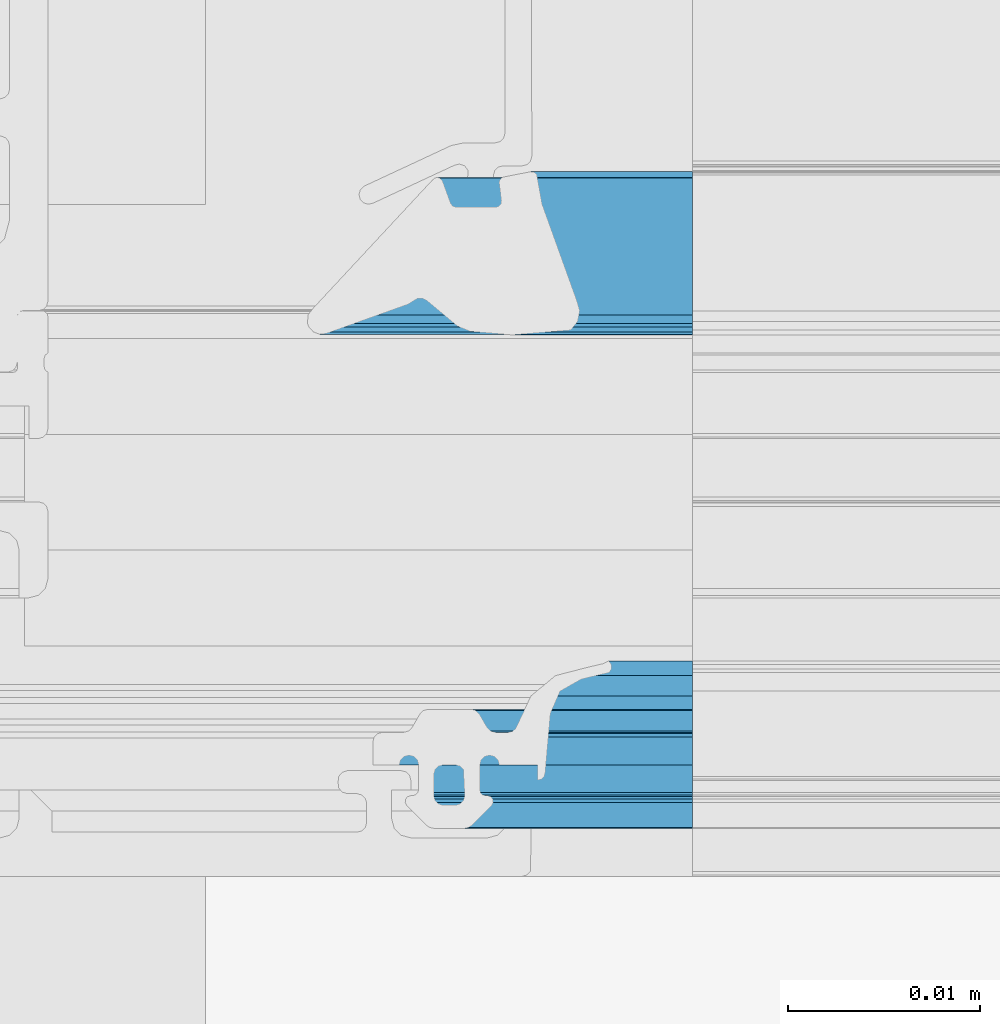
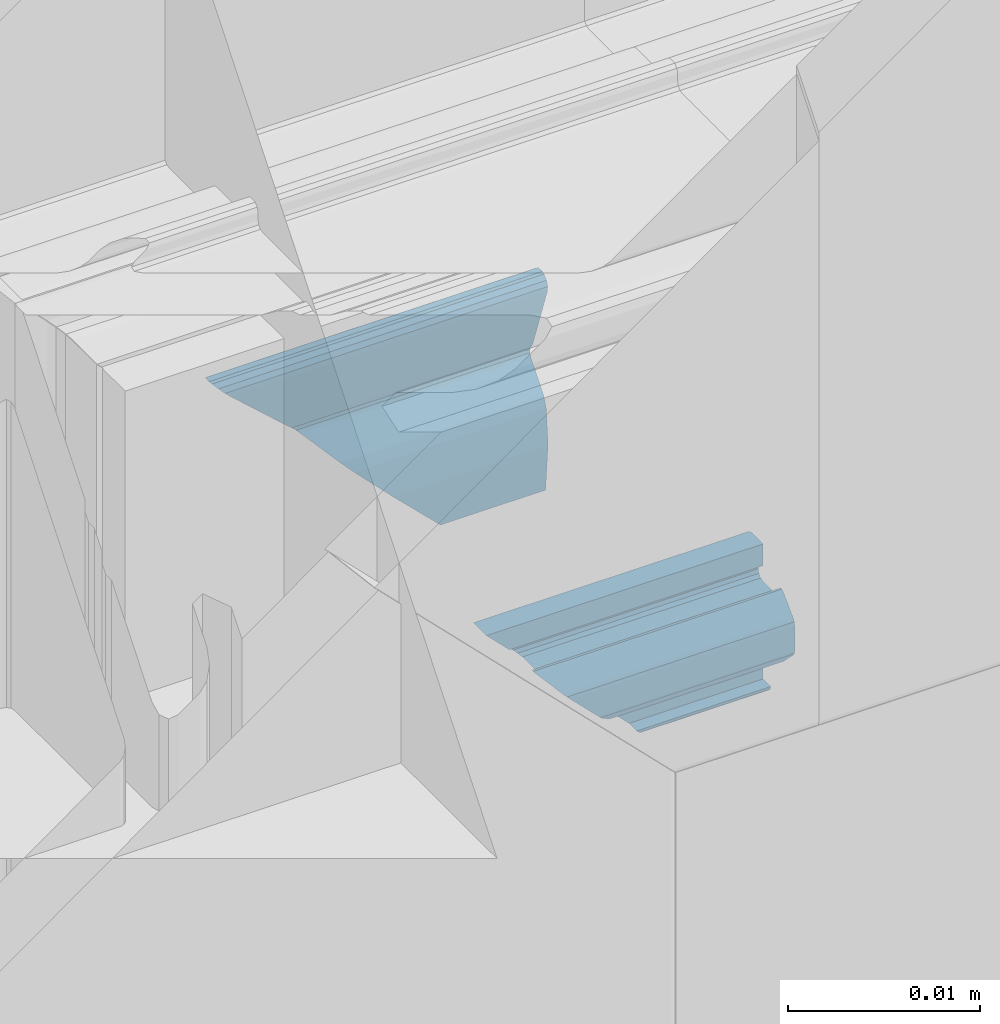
# One storey, part 39 of 69: 1 building element part, 2 elements without a shape of their own.
"""IFC2X3 building model written with IfcOpenShell, lengths in millimetres."""

import ifcopenshell
import ifcopenshell.guid

model = None  # the IFC model being written
_history = None  # IfcOwnerHistory: only IFC2X3 demands one
_inside = {}  # id of a spatial element -> (the spatial element, [elements in it])
_under = {}  # id of a project, library or spatial element -> (it, [spatial elements below it])
_declared = {}  # id of a project -> (the project, [libraries it declares])
_typed = {}  # id of a type object -> (the type object, [elements of that type])
_made_of = {}  # id of a material, layer set ... -> (it, [elements and type objects made of it])


def new_model(schema):
    """Start an empty IFC model of exactly this schema.

    Asked for "IFC4X3", IfcOpenShell would pick the latest addendum, in which some entities
    have other attributes; the version numbers below select the first issue.
    IFC2X3 requires an IfcOwnerHistory on every rooted entity: one is made here for all.
    """
    global model, _history
    if schema == "IFC4X3":
        model = ifcopenshell.file(schema_version=(4, 3, 0, 0))
    else:
        model = ifcopenshell.file(schema=schema)
    _inside.clear()
    _under.clear()
    _declared.clear()
    _typed.clear()
    _made_of.clear()
    _history = None
    if model.schema == "IFC2X3":
        org = make("IfcOrganization", Name="unknown")
        user = make(
            "IfcPersonAndOrganization",
            ThePerson=make("IfcPerson", FamilyName="unknown"),
            TheOrganization=org,
        )
        app = make(
            "IfcApplication",
            ApplicationDeveloper=org,
            Version="unknown",
            ApplicationFullName="unknown",
            ApplicationIdentifier="unknown",
        )
        _history = make(
            "IfcOwnerHistory",
            OwningUser=user,
            OwningApplication=app,
            ChangeAction="ADDED",
            CreationDate=0,
        )
    return model


def make(cls, **values):
    """One entity of the class cls with the attributes given. An attribute that is None is left unset."""
    return model.create_entity(
        cls, **{name: value for name, value in values.items() if value is not None}
    )


def entity(cls, *values):
    """Any entity or typed value of the class cls, its attributes in the order of the schema. None: left unset."""
    e = model.create_entity(cls)
    for i, value in enumerate(values):
        if value is not None:
            e[i] = value
    return e


def rooted(cls, **values):
    """An entity with a GlobalId (a new one), such as an element, a storey or a relation."""
    return make(cls, GlobalId=ifcopenshell.guid.new(), OwnerHistory=_history, **values)


def si_unit(unit_type, name, prefix=None):
    """IfcSIUnit, for example si_unit("LENGTHUNIT", "METRE", prefix="MILLI")."""
    return make("IfcSIUnit", UnitType=unit_type, Prefix=prefix, Name=name)


def converted_unit(unit_type, name, factor, base, dimensions=None, offset=None):
    """IfcConversionBasedUnit, such as the inch: factor (a typed value) times the base unit."""
    return make(
        "IfcConversionBasedUnit"
        if offset is None
        else "IfcConversionBasedUnitWithOffset",
        ConversionOffset=offset,
        Dimensions=None
        if dimensions is None
        else entity("IfcDimensionalExponents", *dimensions),
        UnitType=unit_type,
        Name=name,
        ConversionFactor=make(
            "IfcMeasureWithUnit", ValueComponent=factor, UnitComponent=base
        ),
    )


def derived_unit(unit_type, elements):
    """IfcDerivedUnit: a product of units, each with its exponent."""
    return make(
        "IfcDerivedUnit",
        Elements=[
            make("IfcDerivedUnitElement", Unit=unit, Exponent=power)
            for unit, power in elements
        ],
        UnitType=unit_type,
    )


def money_unit(currency):
    """IfcMonetaryUnit."""
    return make("IfcMonetaryUnit", Currency=currency)


def assignment(units):
    """IfcUnitAssignment: the units of a project."""
    return None if units is None else make("IfcUnitAssignment", Units=units)


def point(xyz):
    """IfcCartesianPoint."""
    return None if xyz is None else make("IfcCartesianPoint", Coordinates=xyz)


def direction(xyz):
    """IfcDirection."""
    return None if xyz is None else make("IfcDirection", DirectionRatios=xyz)


def frame(location, z_axis=None, x_axis=None):
    """IfcAxis2Placement3D, a coordinate frame: its origin and axes. An axis left out is left unset."""
    return make(
        "IfcAxis2Placement3D",
        Location=point(location),
        Axis=direction(z_axis),
        RefDirection=direction(x_axis),
    )


def origin_with_axes():
    """The frame at (0, 0, 0) with the z axis (0, 0, 1) and the x axis (1, 0, 0) written out."""
    return frame((0.0, 0.0, 0.0), z_axis=(0.0, 0.0, 1.0), x_axis=(1.0, 0.0, 0.0))


def place(relative_to, where):
    """IfcLocalPlacement: puts the frame where relative to a parent placement (None: the world)."""
    return make(
        "IfcLocalPlacement", PlacementRelTo=relative_to, RelativePlacement=where
    )


def context(
    kind, dimensions, precision=None, world=None, true_north=None, identifier=None
):
    """IfcGeometricRepresentationContext, for example the 3D "Model" context."""
    return make(
        "IfcGeometricRepresentationContext",
        ContextIdentifier=identifier,
        ContextType=kind,
        CoordinateSpaceDimension=dimensions,
        Precision=precision,
        WorldCoordinateSystem=world,
        TrueNorth=true_north,
    )


def subcontext(parent, identifier, kind, view, scale=None):
    """IfcGeometricRepresentationSubContext, for example "Body" below "Model"."""
    return make(
        "IfcGeometricRepresentationSubContext",
        ContextIdentifier=identifier,
        ContextType=kind,
        ParentContext=parent,
        TargetScale=scale,
        TargetView=view,
    )


def project(units=None, contexts=None):
    """IfcProject with its units and contexts."""
    return rooted(
        "IfcProject",
        Name="project",
        RepresentationContexts=contexts,
        UnitsInContext=assignment(units),
    )


def spatial(cls, under=None, at=None, **own):
    """A site, building, storey or space (cls), placed at a placement, below another one or the project."""
    s = rooted(cls, ObjectPlacement=at, **own)
    if under is not None:
        _under.setdefault(under.id(), (under, []))[1].append(s)
    return s


def faces_of(points, faces, orient=None, outer=None):
    """IfcFace entities. A face is a list of loops; a loop is a list of indices into points, from 0.

    orient and outer hold one flag for each loop. By default every Orientation is true, the
    first loop of a face is its IfcFaceOuterBound and the others are IfcFaceBound.
    """
    made = []
    for i, loops in enumerate(faces):
        bounds = []
        for j, loop in enumerate(loops):
            is_outer = j == 0 if outer is None else outer[i][j]
            bounds.append(
                make(
                    "IfcFaceOuterBound" if is_outer else "IfcFaceBound",
                    Bound=make("IfcPolyLoop", Polygon=[points[k] for k in loop]),
                    Orientation=True if orient is None else orient[i][j],
                )
            )
        made.append(make("IfcFace", Bounds=bounds))
    return made


def faceted_brep(points, faces, orient=None, outer=None, voids=None):
    """IfcFacetedBrep: a solid bounded by flat faces; with voids (closed shells), ...WithVoids."""
    shared = [point(p) for p in points]
    hull = make("IfcClosedShell", CfsFaces=faces_of(shared, faces, orient, outer))
    if voids is None:
        return make("IfcFacetedBrep", Outer=hull)
    return make(
        "IfcFacetedBrepWithVoids",
        Outer=hull,
        Voids=[
            make(cls, CfsFaces=faces_of(shared, fs, o, b)) for cls, fs, o, b in voids
        ],
    )


def shape(context_of_items, identifier, shape_type, items):
    """IfcShapeRepresentation: the items that make up one representation, for example the "Body"."""
    return make(
        "IfcShapeRepresentation",
        ContextOfItems=context_of_items,
        RepresentationIdentifier=identifier,
        RepresentationType=shape_type,
        Items=items,
    )


def material(Name=None, Category=None):
    """IfcMaterial."""
    return make("IfcMaterial", Name=Name, Category=Category)


def made_of(thing, what):
    """Note that an element or type object is made of a material, layer set ...; save() writes the relation."""
    if what is not None:
        _made_of.setdefault(what.id(), (what, []))[1].append(thing)
    return thing


def type_object(cls, material=None, **own):
    """A type object (cls), such as IfcWallType, which elements share."""
    return made_of(rooted(cls, **own), material)


def element(
    cls,
    number,
    at=None,
    inside=None,
    cuts=None,
    type_object=None,
    material=None,
    context=None,
    identifier="Body",
    shape_type=None,
    held_by="IfcProductDefinitionShape",
    body=None,
    shapes=None,
    **own,
):
    """One element of the class cls, such as IfcWall. Its Tag is "e" and its number.

    at: its placement. inside: the storey or other place that contains it. cuts: it is an
    opening in that element (IfcRelVoidsElement). A single representation is given by context,
    identifier, shape_type and body (its items); several are given by shapes. held_by: the class
    of the entity that holds the representations. save() writes the other relations.
    """
    e = rooted(cls, Tag="e%d" % number, ObjectPlacement=at, **own)
    if body is not None:
        shapes = [shape(context, identifier, shape_type, body)]
    if shapes is not None:
        e.Representation = make(held_by, Representations=shapes)
    if inside is not None:
        _inside.setdefault(inside.id(), (inside, []))[1].append(e)
    if cuts is not None:
        rooted(
            "IfcRelVoidsElement", RelatingBuildingElement=cuts, RelatedOpeningElement=e
        )
    if type_object is not None:
        _typed.setdefault(type_object.id(), (type_object, []))[1].append(e)
    return made_of(e, material)


def aggregate(whole, parts):
    """IfcRelAggregates: a whole, such as a stair, and the parts it consists of."""
    return rooted("IfcRelAggregates", RelatingObject=whole, RelatedObjects=parts)


def save(model, path):
    """Write the relations noted so far, then the file.

    IfcRelAggregates (storeys below a building ...), IfcRelContainedInSpatialStructure (elements
    in a storey), IfcRelDefinesByType, IfcRelAssociatesMaterial and IfcRelDeclares: one each for
    every whole, place, type object, material and project.
    """
    for whole, parts in _under.values():
        aggregate(whole, parts)
    for where, things in _inside.values():
        rooted(
            "IfcRelContainedInSpatialStructure",
            RelatedElements=things,
            RelatingStructure=where,
        )
    for kind, things in _typed.values():
        rooted("IfcRelDefinesByType", RelatedObjects=things, RelatingType=kind)
    for what, things in _made_of.values():
        rooted("IfcRelAssociatesMaterial", RelatedObjects=things, RelatingMaterial=what)
    for by, libraries in _declared.values():
        rooted("IfcRelDeclares", RelatingContext=by, RelatedDefinitions=libraries)
    model.write(path)


model = new_model("IFC2X3")

# Units and contexts
model_context = context("Model", 3, precision=0.01, world=origin_with_axes(), true_north=direction((0.0, 1.0)))
body_context = subcontext(model_context, "Body", "Model", "MODEL_VIEW")
ifc_project = project(units=[si_unit("LENGTHUNIT", "METRE", prefix="MILLI"), si_unit("AREAUNIT", "SQUARE_METRE"), si_unit("VOLUMEUNIT", "CUBIC_METRE"), converted_unit("PLANEANGLEUNIT", "DEGREE", entity("IfcPlaneAngleMeasure", 0.0174532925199), si_unit("PLANEANGLEUNIT", "RADIAN"), dimensions=[0, 0, 0, 0, 0, 0, 0]), si_unit("SOLIDANGLEUNIT", "STERADIAN"), money_unit("EUR"), converted_unit("TIMEUNIT", "Year", entity("IfcTimeMeasure", 31556926.0), si_unit("TIMEUNIT", "SECOND"), dimensions=[0, 0, 1, 0, 0, 0, 0]), si_unit("MASSUNIT", "GRAM", prefix="KILO"), si_unit("THERMODYNAMICTEMPERATUREUNIT", "DEGREE_CELSIUS"), si_unit("LUMINOUSINTENSITYUNIT", "LUMEN"), si_unit("ENERGYUNIT", "JOULE", prefix="MEGA"), derived_unit("THERMALCONDUCTANCEUNIT", [(si_unit("POWERUNIT", "WATT"), 1), (si_unit("LENGTHUNIT", "METRE"), -1), (si_unit("THERMODYNAMICTEMPERATUREUNIT", "KELVIN"), -1)]), derived_unit("SPECIFICHEATCAPACITYUNIT", [(si_unit("ENERGYUNIT", "JOULE"), 1), (si_unit("MASSUNIT", "GRAM", prefix="KILO"), -1), (si_unit("THERMODYNAMICTEMPERATUREUNIT", "KELVIN"), -1)]), derived_unit("MASSDENSITYUNIT", [(si_unit("MASSUNIT", "GRAM", prefix="KILO"), 1), (si_unit("VOLUMEUNIT", "CUBIC_METRE"), -1)])], contexts=[model_context])

# Site, building, storey
site_placement = place(None, origin_with_axes())
site = spatial("IfcSite", under=ifc_project, at=site_placement, Name="Puškini 31, Narva", CompositionType="ELEMENT")
building_placement = place(site_placement, origin_with_axes())
building = spatial("IfcBuilding", under=site, at=building_placement, Name="Narva Riigigümnaasium", CompositionType="ELEMENT")
storey_placement = place(building_placement, origin_with_axes())
storey = spatial("IfcBuildingStorey", under=building, at=storey_placement, Name="1.korrus 0.00", CompositionType="ELEMENT", Elevation=0.0)

# Curtain wall, member, building element part
curtain_wall_type = type_object("IfcCurtainWallType", Name="Curtain Wall Type", PredefinedType="NOTDEFINED")
curtain_wall_placement = place(storey_placement, frame((18229.9603698, 152620.000001, -0.397158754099), z_axis=(0.0, 0.0, 1.0), x_axis=(1.0, 0.0, 0.0)))
curtain_wall = element("IfcCurtainWall", 1, at=curtain_wall_placement, inside=storey, type_object=curtain_wall_type, Name="G-KLF-01-1")
member_type = type_object("IfcMemberType", Name="61 x 45", PredefinedType="MULLION")
member_placement = place(curtain_wall_placement, frame((-2105.59313248, 0.0, 3760.3971197), z_axis=(-1.0, 0.0, 0.0), x_axis=(0.0, 0.0, 1.0)))
member = element("IfcMember", 2, at=member_placement, type_object=member_type, Name="G-SKLF-10-raam", ObjectType="MULLION")
aggregate(curtain_wall, [member])
ifc_material = material(Name="Membraan - Veekindel")
building_element_part_placement = place(member_placement, origin_with_axes())
building_element_part = element("IfcBuildingElementPart", 3, at=building_element_part_placement, material=ifc_material, Name="Membraan - Veekindel", context=body_context, shape_type="Brep", body=[
    faceted_brep([(-61.0413385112, -34.3890442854, 0.0), (-59.5800222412, -34.73794757, 0.0), (-59.5800222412, -34.73794757, 5.78718861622), (-61.0413385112, -34.3890442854, 4.32587234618), (-61.1536677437, -34.1934467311, 0.0), (-61.1423164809, -33.9681748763, 0.0), (-61.0108941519, -33.784859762, 0.0), (-60.7381535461, -33.9217644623, 0.0), (-59.8409257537, -34.1343131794, 0.0), (-58.2346494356, -34.5489145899, 0.0), (-56.9567944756, -35.6067920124, 0.0), (-56.2495873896, -37.1074172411, 0.0), (-56.1542959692, -37.3107917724, 0.0), (-55.9795989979, -37.4519392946, 0.0), (-55.7607444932, -37.5023809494, 0.0), (-55.1093263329, -37.5023809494, 0.0), (-54.8593263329, -37.4353936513, 0.0), (-54.676313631, -37.2523809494, 0.0), (-54.2721684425, -36.5523809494, 0.0), (-54.0891557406, -36.3693682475, 0.0), (-53.8391557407, -36.3023809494, 0.0), (-51.602145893, -36.3023809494, 0.0), (-51.352145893, -36.3693682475, 0.0), (-51.1691331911, -36.5523809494, 0.0), (-50.7649880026, -37.2523809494, 0.0), (-50.5819753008, -37.4353936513, 0.0), (-50.3319753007, -37.5023809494, 0.0), (-49.2206527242, -37.5023809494, 0.0), (-48.9706527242, -37.5693682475, 0.0), (-48.7876400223, -37.7523809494, 0.0), (-48.7206527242, -38.0023809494, 0.0), (-48.7206527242, -39.1999494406, 0.0), (-50.10004, -39.1999494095, 0.0), (-50.1670287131, -38.9499497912, 0.0), (-50.3500424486, -38.7669381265, 0.0), (-50.6000428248, -38.699952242, 0.0), (-50.8500424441, -38.7669409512, 0.0), (-51.0330541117, -38.9499546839, 0.0), (-51.10004, -39.1999550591, 0.0), (-51.10004, -40.4999366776, 0.0), (-51.0598476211, -40.6499366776, 0.0), (-50.95004, -40.7597442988, 0.0), (-50.80004, -40.7999366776, 0.0), (-50.7000457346, -40.7999366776, 0.0), (-50.5334025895, -40.8504763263, 0.0), (-50.4229059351, -40.9850671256, 0.0), (-50.4057850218, -41.1583618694, 0.0), (-50.4878083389, -41.3119729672, 0.0), (-51.5281601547, -42.3533311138, 0.0), (-51.6904310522, -42.4618421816, 0.0), (-51.8818844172, -42.4999486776, 0.0), (-53.517932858, -42.4999486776, 0.0), (-53.7093558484, -42.4618547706, 0.0), (-53.8716106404, -42.3533776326, 0.0), (-54.9122350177, -41.3120206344, 0.0), (-54.9942836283, -41.1584047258, 0.0), (-54.9771753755, -40.9850924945, 0.0), (-54.866675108, -40.850483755, 0.0), (-54.7000173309, -40.7999366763, 0.0), (-54.6000210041, -40.7999366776, 0.0), (-54.4500210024, -40.7597443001, 0.0), (-54.3402133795, -40.6499366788, 0.0), (-54.300021, -40.4999366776, 0.0), (-54.300021, -39.1999606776, 0.0), (-54.3670082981, -38.9499606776, 0.0), (-54.5500210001, -38.7669479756, 0.0), (-54.8000210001, -38.6999606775, 0.0), (-55.0500210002, -38.7669479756, 0.0), (-55.2330337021, -38.9499606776, 0.0), (-55.3000210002, -39.1999606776, 0.0), (-57.3000022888, -39.1999494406, 0.0), (-57.3000022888, -39.9999846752, 0.0), (-57.5000161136, -39.9463912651, 0.0), (-57.6464370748, -39.7999717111, 0.0), (-57.7000324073, -39.5999584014, 0.0), (-57.9693613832, -36.5265882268, 0.0), (-58.4755028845, -35.3628499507, 0.0), (-53.5000340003, -40.7999553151, 0.0), (-53.4330491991, -41.0499459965, 0.0), (-53.2500433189, -41.2329518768, 0.0), (-53.0000526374, -41.299936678, 0.0), (-52.4000083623, -41.299936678, 0.0), (-52.150017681, -41.2329518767, 0.0), (-51.9670118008, -41.0499459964, 0.0), (-51.9000269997, -40.799955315, 0.0), (-51.9000269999, -39.6999268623, 0.0), (-51.9670129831, -39.4499317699, 0.0), (-52.1500220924, -39.2669226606, 0.0), (-52.4000171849, -39.1999366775, 0.0), (-53.0000438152, -39.1999366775, 0.0), (-53.2500389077, -39.2669226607, 0.0), (-53.433048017, -39.44993177, 0.0), (-58.4755028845, -35.3628499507, 6.89170797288), (-57.9693613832, -36.5265882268, 7.39784947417), (-57.7000324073, -39.5999584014, 7.66717845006), (-57.6464370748, -39.7999717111, 7.72077378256), (-57.5000161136, -39.9463912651, 7.86719474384), (-57.3000022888, -39.9999846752, 8.06720856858), (-57.3000022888, -39.1999494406, 8.06720856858), (-55.3000210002, -39.1999606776, 10.0671898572), (-55.2330337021, -38.9499606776, 10.1341771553), (-55.0500210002, -38.7669479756, 10.3171898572), (-54.8000210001, -38.6999606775, 10.5671898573), (-54.5500210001, -38.7669479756, 10.8171898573), (-54.3670082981, -38.9499606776, 11.0002025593), (-54.300021, -39.1999606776, 11.0671898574), (-54.300021, -40.4999366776, 11.0671898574), (-54.3402133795, -40.6499366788, 11.0269974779), (-54.4500210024, -40.7597443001, 10.917189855), (-54.6000210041, -40.7999366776, 10.7671898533), (-54.7000173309, -40.7999366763, 10.6671935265), (-54.866675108, -40.850483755, 10.5005357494), (-54.9771753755, -40.9850924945, 10.3900354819), (-54.9942836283, -41.1584047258, 10.3729272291), (-54.9122350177, -41.3120206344, 10.4549758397), (-53.8716106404, -42.3533776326, 11.495600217), (-53.7093558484, -42.4618547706, 11.657855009), (-53.517932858, -42.4999486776, 11.8492779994), (-51.8818844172, -42.4999486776, 13.4853264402), (-51.6904310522, -42.4618421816, 13.6767798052), (-51.5281601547, -42.3533311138, 13.8390507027), (-50.4878083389, -41.3119729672, 14.8794025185), (-50.4057850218, -41.1583618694, 14.9614258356), (-50.4229059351, -40.9850671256, 14.9443049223), (-50.5334025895, -40.8504763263, 14.8338082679), (-50.7000457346, -40.7999366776, 14.6671651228), (-50.80004, -40.7999366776, 14.5671708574), (-50.95004, -40.7597442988, 14.4171708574), (-51.0598476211, -40.6499366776, 14.3073632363), (-51.10004, -40.4999366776, 14.2671708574), (-51.10004, -39.1999550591, 14.2671708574), (-51.0330541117, -38.9499546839, 14.3341567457), (-50.8500424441, -38.7669409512, 14.5171684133), (-50.6000428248, -38.699952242, 14.7671680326), (-50.3500424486, -38.7669381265, 15.0171684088), (-50.1670287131, -38.9499497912, 15.2001821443), (-50.10004, -39.1999494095, 15.2671708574), (-48.7206527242, -39.1999494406, 16.6465581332), (-48.7206527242, -38.0023809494, 16.6465581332), (-48.7876400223, -37.7523809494, 16.5795708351), (-48.9706527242, -37.5693682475, 16.3965581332), (-49.2206527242, -37.5023809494, 16.1465581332), (-50.3319753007, -37.5023809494, 15.0352355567), (-50.5819753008, -37.4353936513, 14.7852355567), (-50.7649880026, -37.2523809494, 14.6022228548), (-51.1691331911, -36.5523809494, 14.1980776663), (-51.352145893, -36.3693682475, 14.0150649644), (-51.602145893, -36.3023809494, 13.7650649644), (-53.8391557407, -36.3023809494, 11.5280551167), (-54.0891557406, -36.3693682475, 11.2780551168), (-54.2721684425, -36.5523809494, 11.0950424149), (-54.676313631, -37.2523809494, 10.6908972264), (-54.8593263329, -37.4353936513, 10.5078845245), (-55.1093263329, -37.5023809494, 10.2578845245), (-55.7607444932, -37.5023809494, 9.60646636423), (-55.9795989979, -37.4519392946, 9.38761185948), (-56.1542959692, -37.3107917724, 9.21291488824), (-56.2495873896, -37.1074172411, 9.11762346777), (-56.9567944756, -35.6067920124, 8.41041638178), (-58.2346494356, -34.5489145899, 7.13256142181), (-59.8409257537, -34.1343131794, 5.52628510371), (-60.7381535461, -33.9217644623, 4.62905731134), (-61.0108941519, -33.784859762, 4.35631670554), (-61.1423164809, -33.9681748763, 4.22489437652), (-61.1536677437, -34.1934467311, 4.21354311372), (-53.5000340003, -40.7999553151, 11.8671768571), (-53.433048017, -39.44993177, 11.9341628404), (-53.2500389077, -39.2669226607, 12.1171719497), (-53.0000438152, -39.1999366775, 12.3671670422), (-52.4000171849, -39.1999366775, 12.9671936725), (-52.1500220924, -39.2669226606, 13.217188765), (-51.9670129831, -39.4499317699, 13.4001978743), (-51.9000269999, -39.6999268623, 13.4671838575), (-51.9000269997, -40.799955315, 13.4671838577), (-51.9670118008, -41.0499459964, 13.4001990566), (-52.150017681, -41.2329518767, 13.2171931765), (-52.4000083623, -41.299936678, 12.9672024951), (-53.0000526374, -41.299936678, 12.36715822), (-53.2500433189, -41.2329518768, 12.1171675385), (-53.4330491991, -41.0499459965, 11.9341616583)], [[[0, 1, 2, 3]], [[0, 4, 5, 6, 7, 8, 9, 10, 11, 12, 13, 14, 15, 16, 17, 18, 19, 20, 21, 22, 23, 24, 25, 26, 27, 28, 29, 30, 31, 32, 33, 34, 35, 36, 37, 38, 39, 40, 41, 42, 43, 44, 45, 46, 47, 48, 49, 50, 51, 52, 53, 54, 55, 56, 57, 58, 59, 60, 61, 62, 63, 64, 65, 66, 67, 68, 69, 70, 71, 72, 73, 74, 75, 76, 1], [77, 78, 79, 80, 81, 82, 83, 84, 85, 86, 87, 88, 89, 90, 91]], [[1, 76, 92, 2]], [[3, 2, 92, 93, 94, 95, 96, 97, 98, 99, 100, 101, 102, 103, 104, 105, 106, 107, 108, 109, 110, 111, 112, 113, 114, 115, 116, 117, 118, 119, 120, 121, 122, 123, 124, 125, 126, 127, 128, 129, 130, 131, 132, 133, 134, 135, 136, 137, 138, 139, 140, 141, 142, 143, 144, 145, 146, 147, 148, 149, 150, 151, 152, 153, 154, 155, 156, 157, 158, 159, 160, 161, 162, 163, 164], [165, 166, 167, 168, 169, 170, 171, 172, 173, 174, 175, 176, 177, 178, 179]], [[4, 0, 3, 164]], [[5, 4, 164, 163]], [[6, 5, 163, 162]], [[7, 6, 162, 161]], [[8, 7, 161, 160]], [[9, 8, 160, 159]], [[10, 9, 159, 158]], [[11, 10, 158, 157]], [[12, 11, 157, 156]], [[13, 12, 156, 155]], [[14, 13, 155, 154]], [[15, 14, 154, 153]], [[16, 15, 153, 152]], [[17, 16, 152, 151]], [[18, 17, 151, 150]], [[19, 18, 150, 149]], [[20, 19, 149, 148]], [[21, 20, 148, 147]], [[22, 21, 147, 146]], [[23, 22, 146, 145]], [[24, 23, 145, 144]], [[25, 24, 144, 143]], [[26, 25, 143, 142]], [[27, 26, 142, 141]], [[28, 27, 141, 140]], [[29, 28, 140, 139]], [[30, 29, 139, 138]], [[31, 30, 138, 137]], [[32, 31, 137, 136]], [[33, 32, 136, 135]], [[34, 33, 135, 134]], [[35, 34, 134, 133]], [[36, 35, 133, 132]], [[37, 36, 132, 131]], [[38, 37, 131, 130]], [[39, 38, 130, 129]], [[40, 39, 129, 128]], [[41, 40, 128, 127]], [[42, 41, 127, 126]], [[43, 42, 126, 125]], [[44, 43, 125, 124]], [[45, 44, 124, 123]], [[46, 45, 123, 122]], [[47, 46, 122, 121]], [[48, 47, 121, 120]], [[49, 48, 120, 119]], [[50, 49, 119, 118]], [[51, 50, 118, 117]], [[52, 51, 117, 116]], [[53, 52, 116, 115]], [[54, 53, 115, 114]], [[55, 54, 114, 113]], [[56, 55, 113, 112]], [[57, 56, 112, 111]], [[58, 57, 111, 110]], [[59, 58, 110, 109]], [[60, 59, 109, 108]], [[61, 60, 108, 107]], [[62, 61, 107, 106]], [[63, 62, 106, 105]], [[64, 63, 105, 104]], [[65, 64, 104, 103]], [[66, 65, 103, 102]], [[67, 66, 102, 101]], [[68, 67, 101, 100]], [[69, 68, 100, 99]], [[70, 69, 99, 98]], [[71, 70, 98, 97]], [[72, 71, 97, 96]], [[73, 72, 96, 95]], [[74, 73, 95, 94]], [[75, 74, 94, 93]], [[76, 75, 93, 92]], [[78, 77, 165, 179]], [[79, 78, 179, 178]], [[80, 79, 178, 177]], [[81, 80, 177, 176]], [[82, 81, 176, 175]], [[83, 82, 175, 174]], [[84, 83, 174, 173]], [[85, 84, 173, 172]], [[86, 85, 172, 171]], [[87, 86, 171, 170]], [[88, 87, 170, 169]], [[89, 88, 169, 168]], [[90, 89, 168, 167]], [[91, 90, 167, 166]], [[77, 91, 166, 165]]]),
    faceted_brep([(-59.0307115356, -16.554149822, 0.0), (-55.9926715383, -16.8063498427, 0.0), (-55.9926715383, -16.8063498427, 9.37453931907), (-59.0307115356, -16.554149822, 6.33649932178), (-59.3884652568, -16.1092618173, 0.0), (-59.5001582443, -15.5494067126, 0.0), (-59.3405112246, -15.0012955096, 0.0), (-57.5418652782, -10.0035930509, 0.0), (-57.2632233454, -8.46932121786, 0.0), (-57.1824204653, -8.36745448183, 0.0), (-57.0661058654, -8.3093438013, 0.0), (-56.9361285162, -8.30590490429, 0.0), (-55.5361285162, -8.57803733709, 0.0), (-55.4168250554, -8.6299735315, 0.0), (-55.3307332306, -8.7275382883, 0.0), (-55.2940485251, -8.85237785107, 0.0), (-55.4099827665, -9.81272116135, 0.0), (-55.3838261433, -9.97808311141, 0.0), (-55.2731258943, -10.1036784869, 0.0), (-55.1123574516, -10.1503930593, 0.0), (-53.0580290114, -10.1503930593, 0.0), (-52.8859560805, -10.0961386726, 0.0), (-52.7761212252, -9.95299910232, 0.0), (-52.3556584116, -8.79778701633, 0.0), (-52.2574645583, -8.66326410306, 0.0), (-52.1026310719, -8.60190419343, 0.0), (-51.938943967, -8.6326446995, 0.0), (-51.8169217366, -8.74599822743, 0.0), (-45.6142070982, -15.4144760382, 0.0), (-45.3418968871, -15.7688623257, 0.0), (-45.3195226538, -16.2152275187, 0.0), (-45.3889077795, -16.3899097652, 0.0), (-45.6241929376, -16.6482027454, 0.0), (-45.950966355, -16.7718696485, 0.0), (-46.298307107, -16.7340705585, 0.0), (-50.5536994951, -15.2121179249, 0.0), (-50.8437237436, -15.0307134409, 0.0), (-51.0558924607, -14.9074036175, 0.0), (-51.3011765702, -14.8998814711, 0.0), (-51.5205025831, -15.0099586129, 0.0), (-53.1225200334, -16.3483062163, 0.0), (-53.7899070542, -16.6230039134, 0.0), (-53.7899070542, -16.6230039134, 11.5773038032), (-53.1225200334, -16.3483062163, 12.244690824), (-51.5205025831, -15.0099586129, 13.8467082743), (-51.3011765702, -14.8998814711, 14.0660342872), (-51.0558924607, -14.9074036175, 14.3113183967), (-50.8437237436, -15.0307134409, 14.5234871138), (-50.5536994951, -15.2121179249, 14.8135113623), (-46.298307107, -16.7340705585, 19.0689037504), (-45.950966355, -16.7718696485, 19.4162445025), (-45.6241929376, -16.6482027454, 19.7430179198), (-45.3889077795, -16.3899097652, 19.9783030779), (-45.3195226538, -16.2152275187, 20.0476882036), (-45.3418968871, -15.7688623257, 20.0253139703), (-45.6142070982, -15.4144760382, 19.7530037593), (-51.8169217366, -8.74599822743, 13.5502891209), (-51.938943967, -8.6326446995, 13.4282668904), (-52.1026310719, -8.60190419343, 13.2645797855), (-52.2574645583, -8.66326410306, 13.1097462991), (-52.3556584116, -8.79778701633, 13.0115524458), (-52.7761212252, -9.95299910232, 12.5910896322), (-52.8859560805, -10.0961386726, 12.4812547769), (-53.0580290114, -10.1503930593, 12.309181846), (-55.1123574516, -10.1503930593, 10.2548534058), (-55.2731258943, -10.1036784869, 10.0940849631), (-55.3838261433, -9.97808311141, 9.9833847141), (-55.4099827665, -9.81272116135, 9.95722809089), (-55.2940485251, -8.85237785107, 10.0731623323), (-55.3307332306, -8.7275382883, 10.0364776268), (-55.4168250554, -8.6299735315, 9.95038580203), (-55.5361285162, -8.57803733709, 9.83108234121), (-56.9361285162, -8.30590490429, 8.43108234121), (-57.0661058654, -8.3093438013, 8.30110499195), (-57.1824204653, -8.36745448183, 8.18479039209), (-57.2632233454, -8.46932121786, 8.10398751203), (-57.5418652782, -10.0035930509, 7.82534557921), (-59.3405112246, -15.0012955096, 6.02669963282), (-59.5001582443, -15.5494067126, 5.86705261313), (-59.3884652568, -16.1092618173, 5.97874560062)], [[[0, 1, 2, 3]], [[0, 4, 5, 6, 7, 8, 9, 10, 11, 12, 13, 14, 15, 16, 17, 18, 19, 20, 21, 22, 23, 24, 25, 26, 27, 28, 29, 30, 31, 32, 33, 34, 35, 36, 37, 38, 39, 40, 41, 1]], [[1, 41, 42, 2]], [[3, 2, 42, 43, 44, 45, 46, 47, 48, 49, 50, 51, 52, 53, 54, 55, 56, 57, 58, 59, 60, 61, 62, 63, 64, 65, 66, 67, 68, 69, 70, 71, 72, 73, 74, 75, 76, 77, 78, 79]], [[4, 0, 3, 79]], [[5, 4, 79, 78]], [[6, 5, 78, 77]], [[7, 6, 77, 76]], [[8, 7, 76, 75]], [[9, 8, 75, 74]], [[10, 9, 74, 73]], [[11, 10, 73, 72]], [[12, 11, 72, 71]], [[13, 12, 71, 70]], [[14, 13, 70, 69]], [[15, 14, 69, 68]], [[16, 15, 68, 67]], [[17, 16, 67, 66]], [[18, 17, 66, 65]], [[19, 18, 65, 64]], [[20, 19, 64, 63]], [[21, 20, 63, 62]], [[22, 21, 62, 61]], [[23, 22, 61, 60]], [[24, 23, 60, 59]], [[25, 24, 59, 58]], [[26, 25, 58, 57]], [[27, 26, 57, 56]], [[28, 27, 56, 55]], [[29, 28, 55, 54]], [[30, 29, 54, 53]], [[31, 30, 53, 52]], [[32, 31, 52, 51]], [[33, 32, 51, 50]], [[34, 33, 50, 49]], [[35, 34, 49, 48]], [[36, 35, 48, 47]], [[37, 36, 47, 46]], [[38, 37, 46, 45]], [[39, 38, 45, 44]], [[40, 39, 44, 43]], [[41, 40, 43, 42]]]),
])
aggregate(member, [building_element_part])

save(model, "model.ifc")
